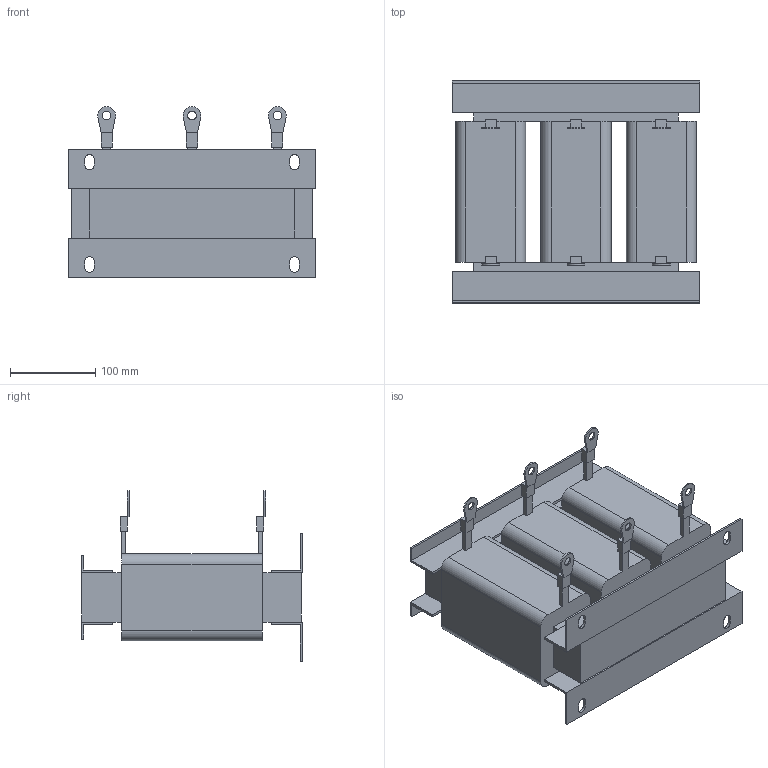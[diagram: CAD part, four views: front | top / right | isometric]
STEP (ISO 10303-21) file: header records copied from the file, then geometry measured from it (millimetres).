
FILE_DESCRIPTION(/* description */ (''),/* implementation_level */ '2;1');
FILE_NAME(/* name */ 'ACO-0045-T6-4.stp',/* time_stamp */ '2025-01-23T15:55:44+04:00',/* author */ ('Александр (огранич)'),/* organization */ (''),/* preprocessor_version */ 'ST-DEVELOPER v19.2',/* originating_system */ 'Autodesk Inventor 2024',/* authorisation */ '');
FILE_SCHEMA (('AUTOMOTIVE_DESIGN { 1 0 10303 214 3 1 1 }'));
Length unit declared in the file: millimetre
Products named in the file (1): ACO-0015-T4-4
Bounding box: 290 x 260 x 199.96 mm (x, y, z)
Volume: 5615216.8 mm3; surface area: 396211 mm2
Topology: 7 solids, 7 shells, 190 faces, 498 edges, 324 vertices
Faces by surface type: plane 158, cylinder 32
Full cylindrical faces by diameter (mm): 10 x6
Entity records: 5839 total; most frequent: CARTESIAN_POINT 1013, ORIENTED_EDGE 996, DIRECTION 944, EDGE_CURVE 498, LINE 434, VECTOR 434, VERTEX_POINT 324, AXIS2_PLACEMENT_3D 255
